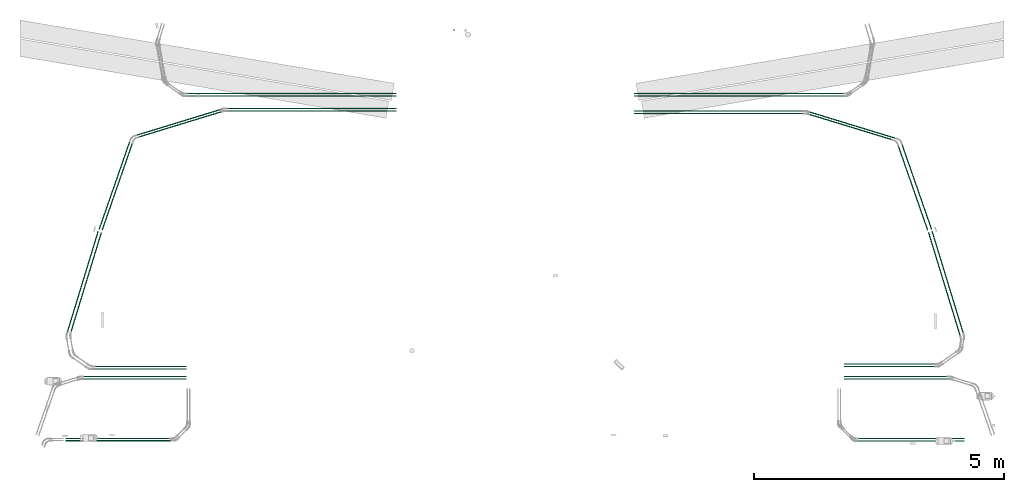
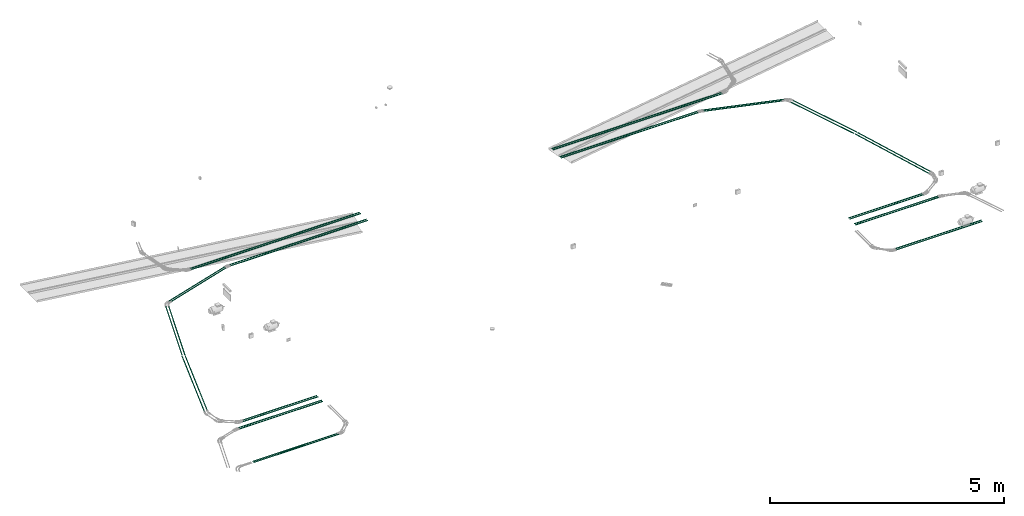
# One storey, part 1 of 22: 32 flow segments.
"""IFC2X3 building model written with IfcOpenShell, lengths in millimetres."""

from ifc_helpers import new_model, entity, si_unit, converted_unit, derived_unit, direction, frame, origin_with_axes, origin_2d_with_axis, place, context, subcontext, project, spatial, hollow_circle, extrude, source, transform, mapped, type_object, element, save


model = new_model("IFC2X3")

# Units and contexts
model_context = context("Model", 3, precision=0.01, world=frame((0.0, 4.29681676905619e-09, 0.0)), true_north=direction((4.01073788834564e-13, 1.0)))
plan_context = context("Plan", 3, precision=0.01, world=frame((0.0, 4.29681676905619e-09, 0.0)), true_north=direction((4.01073788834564e-13, 1.0)))
body_context = subcontext(model_context, "Body", "Model", "MODEL_VIEW")
ifc_project = project(units=[converted_unit("PLANEANGLEUNIT", "DEGREE", entity("IfcPositiveLengthMeasure", 0.0174532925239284), si_unit("PLANEANGLEUNIT", "RADIAN"), dimensions=[0, 0, 0, 0, 0, 0, 0]), si_unit("AREAUNIT", "SQUARE_METRE"), si_unit("LENGTHUNIT", "METRE", prefix="MILLI"), si_unit("MASSUNIT", "GRAM", prefix="KILO"), si_unit("POWERUNIT", "WATT"), si_unit("PRESSUREUNIT", "PASCAL", prefix="KILO"), si_unit("FORCEUNIT", "NEWTON", prefix="KILO"), si_unit("ELECTRICVOLTAGEUNIT", "VOLT"), si_unit("ELECTRICCURRENTUNIT", "AMPERE"), si_unit("THERMODYNAMICTEMPERATUREUNIT", "DEGREE_CELSIUS"), si_unit("TIMEUNIT", "SECOND"), si_unit("VOLUMEUNIT", "CUBIC_METRE"), derived_unit("LINEARVELOCITYUNIT", [(si_unit("LENGTHUNIT", "METRE"), 1), (si_unit("TIMEUNIT", "SECOND"), -1)]), derived_unit("VOLUMETRICFLOWRATEUNIT", [(si_unit("VOLUMEUNIT", "CUBIC_METRE"), 1), (si_unit("TIMEUNIT", "SECOND"), -1)]), derived_unit("THERMALTRANSMITTANCEUNIT", [(si_unit("POWERUNIT", "WATT"), 1), (si_unit("THERMODYNAMICTEMPERATUREUNIT", "KELVIN"), -1), (si_unit("AREAUNIT", "SQUARE_METRE"), -1)]), derived_unit("SOUNDPRESSUREUNIT", [(si_unit("PRESSUREUNIT", "PASCAL"), 1)])], contexts=[model_context, plan_context])

# Site, building, storey
site_placement = place(None, frame((0.0, -4.29681676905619e-09, 0.0), z_axis=(0.0, 0.0, 1.0), x_axis=(1.0, 0.0, 0.0)))
site = spatial("IfcSite", under=ifc_project, at=site_placement, Name="ENGM", CompositionType="ELEMENT")
building_placement = place(site_placement, frame((0.0, 4.29681676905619e-09, 0.0), z_axis=(0.0, 0.0, 1.0), x_axis=(1.0, 0.0, 0.0)))
building = spatial("IfcBuilding", under=site, at=building_placement, Name="TI", CompositionType="ELEMENT")
storey_placement = place(building_placement, frame((0.0, 0.0, 210900.0), z_axis=(0.0, 0.0, 1.0), x_axis=(1.0, 0.0, 0.0)))
storey = spatial("IfcBuildingStorey", under=building, at=storey_placement, Name="Nivå F", CompositionType="ELEMENT", Elevation=210900.0)

# Flow segments
cable_carrier_segment_type = type_object("IfcCableCarrierSegmentType", Name="Trekkerør, korrugert", PredefinedType="CONDUITSEGMENT")
shared_shape_1 = source(origin_with_axes(), body_context, "Body", "SweptSolid", [
    extrude(hollow_circle(Radius=12.5, WallThickness=2.0, at=origin_2d_with_axis()), frame((0.0, 0.0, 0.0), z_axis=(1.0, 0.0, 0.0), x_axis=(0.0, 1.0, 0.0)), (0.0, 0.0, 1.0), 2103.8),
])
flow_segment_1_placement = place(storey_placement, frame((585115.91323, 569811.72978, -56.7999999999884), z_axis=(0.0, 0.0, 1.0), x_axis=(-1.0, 0.0, 0.0)))
element("IfcFlowSegment", 1, at=flow_segment_1_placement, inside=storey, type_object=cable_carrier_segment_type, Name="Trekkerør, korrugert", context=body_context, shape_type="MappedRepresentation", body=[
    mapped(shared_shape_1, transform((0.0, 0.0, 0.0), scale=1.0)),
])
shared_shape_2 = source(origin_with_axes(), body_context, "Body", "SweptSolid", [
    extrude(hollow_circle(Radius=12.5, WallThickness=2.0, at=origin_2d_with_axis()), frame((0.0, 0.0, 0.0), z_axis=(1.0, 0.0, 0.0), x_axis=(0.0, 1.0, 0.0)), (0.0, 0.0, 1.0), 2071.4),
])
flow_segment_2_placement = place(storey_placement, frame((585083.47486, 569855.0, -56.7999999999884), z_axis=(0.0, 0.0, 1.0), x_axis=(-1.0, 0.0, 0.0)))
element("IfcFlowSegment", 2, at=flow_segment_2_placement, inside=storey, type_object=cable_carrier_segment_type, Name="Trekkerør, korrugert", context=body_context, shape_type="MappedRepresentation", body=[
    mapped(shared_shape_2, transform((0.0, 0.0, 0.0), scale=1.0)),
])
shared_shape_3 = source(origin_with_axes(), body_context, "Body", "SweptSolid", [
    extrude(hollow_circle(Radius=12.5, WallThickness=2.0, at=origin_2d_with_axis()), frame((0.0, 0.0, 0.0), z_axis=(1.0, 0.0, 0.0), x_axis=(0.0, 1.0, 0.0)), (0.0, 0.0, 1.0), 2055.3),
])
for number, where, z_axis, x_axis in (
    (3, (583373.0429, 571094.62419, -56.7999999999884), (0.0, 0.0, 1.0), (1.0, 0.0, 0.0)),
    (4, (583373.0429, 571044.62419, -56.7999999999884), (0.0, 0.0, 1.0), (1.0, 0.0, 0.0)),
    (5, (600626.9571, 571094.62419, -56.7999999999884), (0.0, 0.0, 1.0), (-1.0, 0.0, 0.0)),
    (6, (600626.9571, 571044.62419, -56.7999999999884), (0.0, 0.0, 1.0), (-1.0, 0.0, 0.0)),
):
    element("IfcFlowSegment", number, at=place(storey_placement, frame(where, z_axis=z_axis, x_axis=x_axis)), inside=storey, type_object=cable_carrier_segment_type, Name="Trekkerør, korrugert", context=body_context, shape_type="MappedRepresentation", body=[
        mapped(shared_shape_3, transform((0.0, 0.0, 0.0), scale=1.0)),
    ])
shared_shape_4 = source(origin_with_axes(), body_context, "Body", "SweptSolid", [
    extrude(hollow_circle(Radius=12.5, WallThickness=2.0, at=origin_2d_with_axis()), frame((0.0, 0.0, 0.0), z_axis=(1.0, 0.0, 0.0), x_axis=(0.0, 1.0, 0.0)), (0.0, 0.0, 1.0), 1862.7),
])
flow_segment_3_placement = place(storey_placement, frame((583565.67102, 571244.62419, -56.7999999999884), z_axis=(0.0, 0.0, 1.0), x_axis=(1.0, 0.0, 0.0)))
element("IfcFlowSegment", 7, at=flow_segment_3_placement, inside=storey, type_object=cable_carrier_segment_type, Name="Trekkerør, korrugert", context=body_context, shape_type="MappedRepresentation", body=[
    mapped(shared_shape_4, transform((0.0, 0.0, 0.0), scale=1.0)),
])
shared_shape_5 = source(origin_with_axes(), body_context, "Body", "SweptSolid", [
    extrude(hollow_circle(Radius=12.5, WallThickness=2.0, at=origin_2d_with_axis()), frame((0.0, 0.0, 0.0), z_axis=(1.0, 0.0, 0.0), x_axis=(0.0, 1.0, 0.0)), (0.0, 0.0, 1.0), 2109.9),
])
flow_segment_4_placement = place(storey_placement, frame((583048.52844, 571981.90299, -56.7999999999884), z_axis=(0.0, 0.0, 1.0), x_axis=(0.292371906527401, 0.956304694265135, 0.0)))
element("IfcFlowSegment", 8, at=flow_segment_4_placement, inside=storey, type_object=cable_carrier_segment_type, Name="Trekkerør, korrugert", context=body_context, shape_type="MappedRepresentation", body=[
    mapped(shared_shape_5, transform((0.0, 0.0, 0.0), scale=1.0)),
])
shared_shape_6 = source(origin_with_axes(), body_context, "Body", "SweptSolid", [
    extrude(hollow_circle(Radius=12.5, WallThickness=2.0, at=origin_2d_with_axis()), frame((0.0, 0.0, 0.0), z_axis=(1.0, 0.0, 0.0), x_axis=(0.0, 1.0, 0.0)), (0.0, 0.0, 1.0), 1817.5),
])
for number, where, z_axis, x_axis in (
    (9, (583610.84132, 571294.62419, -56.7999999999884), (0.0, 0.0, 1.0), (1.0, 0.0, 0.0)),
    (10, (600389.15868, 571294.62419, -56.7999999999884), (0.0, 0.0, 1.0), (-1.0, 0.0, 0.0)),
):
    element("IfcFlowSegment", number, at=place(storey_placement, frame(where, z_axis=z_axis, x_axis=x_axis)), inside=storey, type_object=cable_carrier_segment_type, Name="Trekkerør, korrugert", context=body_context, shape_type="MappedRepresentation", body=[
        mapped(shared_shape_6, transform((0.0, 0.0, 0.0), scale=1.0)),
    ])
shared_shape_7 = source(origin_with_axes(), body_context, "Body", "SweptSolid", [
    extrude(hollow_circle(Radius=12.5, WallThickness=2.0, at=origin_2d_with_axis()), frame((0.0, 0.0, 0.0), z_axis=(1.0, 0.0, 0.0), x_axis=(0.0, 1.0, 0.0)), (0.0, 0.0, 1.0), 2061.0),
])
flow_segment_5_placement = place(storey_placement, frame((583125.6069, 572000.50934, -56.7999999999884), z_axis=(0.0, 0.0, 1.0), x_axis=(0.292371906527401, 0.956304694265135, 0.0)))
element("IfcFlowSegment", 11, at=flow_segment_5_placement, inside=storey, type_object=cable_carrier_segment_type, Name="Trekkerør, korrugert", context=body_context, shape_type="MappedRepresentation", body=[
    mapped(shared_shape_7, transform((0.0, 0.0, 0.0), scale=1.0)),
])
shared_shape_8 = source(origin_with_axes(), body_context, "Body", "SweptSolid", [
    extrude(hollow_circle(Radius=12.5, WallThickness=2.0, at=origin_2d_with_axis()), frame((0.0, 0.0, 0.0), z_axis=(1.0, 0.0, 0.0), x_axis=(0.0, 1.0, 0.0)), (0.0, 0.0, 1.0), 3382.9),
])
for number, where, z_axis, x_axis in (
    (12, (586245.44178, 576401.49851, -56.7999999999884), (0.0, 0.0, 1.0), (1.0, 0.0, 0.0)),
    (13, (586245.44178, 576451.49851, -56.7999999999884), (0.0, 0.0, 1.0), (1.0, 0.0, 0.0)),
    (14, (597754.55822, 576351.49851, -56.7999999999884), (0.0, 0.0, 1.0), (-1.0, 0.0, 0.0)),
    (15, (597754.55822, 576401.49851, -56.7999999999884), (0.0, 0.0, 1.0), (-1.0, 0.0, 0.0)),
):
    element("IfcFlowSegment", number, at=place(storey_placement, frame(where, z_axis=z_axis, x_axis=x_axis)), inside=storey, type_object=cable_carrier_segment_type, Name="Trekkerør, korrugert", context=body_context, shape_type="MappedRepresentation", body=[
        mapped(shared_shape_8, transform((0.0, 0.0, 0.0), scale=1.0)),
    ])
shared_shape_9 = source(origin_with_axes(), body_context, "Body", "SweptSolid", [
    extrude(hollow_circle(Radius=12.5, WallThickness=2.0, at=origin_2d_with_axis()), frame((0.0, 0.0, 0.0), z_axis=(1.0, 0.0, 0.0), x_axis=(0.0, 1.0, 0.0)), (0.0, 0.0, 1.0), 1697.2),
])
flow_segment_6_placement = place(storey_placement, frame((586114.34225, 576381.90556, -56.7999999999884), z_axis=(0.0, 0.0, 1.0), x_axis=(-0.956304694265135, -0.292371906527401, 0.0)))
element("IfcFlowSegment", 16, at=flow_segment_6_placement, inside=storey, type_object=cable_carrier_segment_type, Name="Trekkerør, korrugert", context=body_context, shape_type="MappedRepresentation", body=[
    mapped(shared_shape_9, transform((0.0, 0.0, 0.0), scale=1.0)),
])
shared_shape_10 = source(origin_with_axes(), body_context, "Body", "SweptSolid", [
    extrude(hollow_circle(Radius=12.5, WallThickness=2.0, at=origin_2d_with_axis()), frame((0.0, 0.0, 0.0), z_axis=(1.0, 0.0, 0.0), x_axis=(0.0, 1.0, 0.0)), (0.0, 0.0, 1.0), 1825.3),
])
flow_segment_7_placement = place(storey_placement, frame((584344.55106, 575744.47391, -56.7999999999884), z_axis=(0.0, 0.0, 1.0), x_axis=(-0.328832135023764, -0.944388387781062, 0.0)))
element("IfcFlowSegment", 17, at=flow_segment_7_placement, inside=storey, type_object=cable_carrier_segment_type, Name="Trekkerør, korrugert", context=body_context, shape_type="MappedRepresentation", body=[
    mapped(shared_shape_10, transform((0.0, 0.0, 0.0), scale=1.0)),
])
shared_shape_11 = source(origin_with_axes(), body_context, "Body", "SweptSolid", [
    extrude(hollow_circle(Radius=12.5, WallThickness=2.0, at=origin_2d_with_axis()), frame((0.0, 0.0, 0.0), z_axis=(1.0, 0.0, 0.0), x_axis=(0.0, 1.0, 0.0)), (0.0, 0.0, 1.0), 1753.6),
])
flow_segment_8_placement = place(storey_placement, frame((586114.34225, 576431.90556, -56.7999999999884), z_axis=(0.0, 0.0, 1.0), x_axis=(-0.956304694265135, -0.292371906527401, 0.0)))
element("IfcFlowSegment", 18, at=flow_segment_8_placement, inside=storey, type_object=cable_carrier_segment_type, Name="Trekkerør, korrugert", context=body_context, shape_type="MappedRepresentation", body=[
    mapped(shared_shape_11, transform((0.0, 0.0, 0.0), scale=1.0)),
])
shared_shape_12 = source(origin_with_axes(), body_context, "Body", "SweptSolid", [
    extrude(hollow_circle(Radius=12.5, WallThickness=2.0, at=origin_2d_with_axis()), frame((0.0, 0.0, 0.0), z_axis=(1.0, 0.0, 0.0), x_axis=(0.0, 1.0, 0.0)), (0.0, 0.0, 1.0), 1845.8),
])
flow_segment_9_placement = place(storey_placement, frame((584290.67143, 575778.00125, -56.7999999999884), z_axis=(0.0, 0.0, 1.0), x_axis=(-0.328832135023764, -0.944388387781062, 0.0)))
element("IfcFlowSegment", 19, at=flow_segment_9_placement, inside=storey, type_object=cable_carrier_segment_type, Name="Trekkerør, korrugert", context=body_context, shape_type="MappedRepresentation", body=[
    mapped(shared_shape_12, transform((0.0, 0.0, 0.0), scale=1.0)),
])
shared_shape_13 = source(origin_with_axes(), body_context, "Body", "SweptSolid", [
    extrude(hollow_circle(Radius=12.5, WallThickness=2.0, at=origin_2d_with_axis()), frame((0.0, 0.0, 0.0), z_axis=(1.0, 0.0, 0.0), x_axis=(0.0, 1.0, 0.0)), (0.0, 0.0, 1.0), 4182.8),
])
for number, where, z_axis, x_axis in (
    (20, (585445.58535, 576749.62419, -56.7999999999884), (0.0, 0.0, 1.0), (1.0, 0.0, 0.0)),
    (21, (585445.58535, 576699.62419, -56.7999999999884), (0.0, 0.0, 1.0), (1.0, 0.0, 0.0)),
    (22, (598554.41465, 576749.62419, -56.7999999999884), (0.0, 0.0, 1.0), (-1.0, 0.0, 0.0)),
    (23, (598554.41465, 576699.62419, -56.7999999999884), (0.0, 0.0, 1.0), (-1.0, 0.0, 0.0)),
):
    element("IfcFlowSegment", number, at=place(storey_placement, frame(where, z_axis=z_axis, x_axis=x_axis)), inside=storey, type_object=cable_carrier_segment_type, Name="Trekkerør, korrugert", context=body_context, shape_type="MappedRepresentation", body=[
        mapped(shared_shape_13, transform((0.0, 0.0, 0.0), scale=1.0)),
    ])
shared_shape_14 = source(origin_with_axes(), body_context, "Body", "SweptSolid", [
    extrude(hollow_circle(Radius=12.5, WallThickness=2.0, at=origin_2d_with_axis()), frame((0.0, 0.0, 0.0), z_axis=(1.0, 0.0, 0.0), x_axis=(0.0, 1.0, 0.0)), (0.0, 0.0, 1.0), 2121.4),
])
for number, where, z_axis, x_axis in (
    (24, (598866.52514, 569805.0, -56.7999999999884), (0.0, 0.0, 1.0), (1.0, 0.0, 0.0)),
    (25, (598866.52514, 569855.0, -56.7999999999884), (0.0, 0.0, 1.0), (1.0, 0.0, 0.0)),
):
    element("IfcFlowSegment", number, at=place(storey_placement, frame(where, z_axis=z_axis, x_axis=x_axis)), inside=storey, type_object=cable_carrier_segment_type, Name="Trekkerør, korrugert", context=body_context, shape_type="MappedRepresentation", body=[
        mapped(shared_shape_14, transform((0.0, 0.0, 0.0), scale=1.0)),
    ])
shared_shape_15 = source(origin_with_axes(), body_context, "Body", "SweptSolid", [
    extrude(hollow_circle(Radius=12.5, WallThickness=2.0, at=origin_2d_with_axis()), frame((0.0, 0.0, 0.0), z_axis=(1.0, 0.0, 0.0), x_axis=(0.0, 1.0, 0.0)), (0.0, 0.0, 1.0), 2122.4),
])
flow_segment_10_placement = place(storey_placement, frame((600955.23253, 571969.6014, -56.7999999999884), z_axis=(0.0, 0.0, 1.0), x_axis=(-0.292371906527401, 0.956304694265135, 0.0)))
element("IfcFlowSegment", 26, at=flow_segment_10_placement, inside=storey, type_object=cable_carrier_segment_type, Name="Trekkerør, korrugert", context=body_context, shape_type="MappedRepresentation", body=[
    mapped(shared_shape_15, transform((0.0, 0.0, 0.0), scale=1.0)),
])
shared_shape_16 = source(origin_with_axes(), body_context, "Body", "SweptSolid", [
    extrude(hollow_circle(Radius=12.5, WallThickness=2.0, at=origin_2d_with_axis()), frame((0.0, 0.0, 0.0), z_axis=(1.0, 0.0, 0.0), x_axis=(0.0, 1.0, 0.0)), (0.0, 0.0, 1.0), 1806.1),
])
flow_segment_11_placement = place(storey_placement, frame((600377.70954, 571344.62419, -56.7999999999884), z_axis=(0.0, 0.0, 1.0), x_axis=(-1.0, 0.0, 0.0)))
element("IfcFlowSegment", 27, at=flow_segment_11_placement, inside=storey, type_object=cable_carrier_segment_type, Name="Trekkerør, korrugert", context=body_context, shape_type="MappedRepresentation", body=[
    mapped(shared_shape_16, transform((0.0, 0.0, 0.0), scale=1.0)),
])
shared_shape_17 = source(origin_with_axes(), body_context, "Body", "SweptSolid", [
    extrude(hollow_circle(Radius=12.5, WallThickness=2.0, at=origin_2d_with_axis()), frame((0.0, 0.0, 0.0), z_axis=(1.0, 0.0, 0.0), x_axis=(0.0, 1.0, 0.0)), (0.0, 0.0, 1.0), 2160.3),
])
flow_segment_12_placement = place(storey_placement, frame((600894.99385, 571911.53493, -56.7999999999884), z_axis=(0.0, 0.0, 1.0), x_axis=(-0.292371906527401, 0.956304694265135, 0.0)))
element("IfcFlowSegment", 28, at=flow_segment_12_placement, inside=storey, type_object=cable_carrier_segment_type, Name="Trekkerør, korrugert", context=body_context, shape_type="MappedRepresentation", body=[
    mapped(shared_shape_17, transform((0.0, 0.0, 0.0), scale=1.0)),
])
shared_shape_18 = source(origin_with_axes(), body_context, "Body", "SweptSolid", [
    extrude(hollow_circle(Radius=12.5, WallThickness=2.0, at=origin_2d_with_axis()), frame((0.0, 0.0, 0.0), z_axis=(1.0, 0.0, 0.0), x_axis=(0.0, 1.0, 0.0)), (0.0, 0.0, 1.0), 1706.3),
])
flow_segment_13_placement = place(storey_placement, frame((597885.65775, 576331.90556, -56.7999999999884), z_axis=(0.0, 0.0, 1.0), x_axis=(0.956304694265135, -0.292371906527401, 0.0)))
element("IfcFlowSegment", 29, at=flow_segment_13_placement, inside=storey, type_object=cable_carrier_segment_type, Name="Trekkerør, korrugert", context=body_context, shape_type="MappedRepresentation", body=[
    mapped(shared_shape_18, transform((0.0, 0.0, 0.0), scale=1.0)),
])
shared_shape_19 = source(origin_with_axes(), body_context, "Body", "SweptSolid", [
    extrude(hollow_circle(Radius=12.5, WallThickness=2.0, at=origin_2d_with_axis()), frame((0.0, 0.0, 0.0), z_axis=(1.0, 0.0, 0.0), x_axis=(0.0, 1.0, 0.0)), (0.0, 0.0, 1.0), 1775.8),
])
flow_segment_14_placement = place(storey_placement, frame((599664.09653, 575691.83007, -56.7999999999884), z_axis=(0.0, 0.0, 1.0), x_axis=(0.328832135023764, -0.944388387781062, 0.0)))
element("IfcFlowSegment", 30, at=flow_segment_14_placement, inside=storey, type_object=cable_carrier_segment_type, Name="Trekkerør, korrugert", context=body_context, shape_type="MappedRepresentation", body=[
    mapped(shared_shape_19, transform((0.0, 0.0, 0.0), scale=1.0)),
])
shared_shape_20 = source(origin_with_axes(), body_context, "Body", "SweptSolid", [
    extrude(hollow_circle(Radius=12.5, WallThickness=2.0, at=origin_2d_with_axis()), frame((0.0, 0.0, 0.0), z_axis=(1.0, 0.0, 0.0), x_axis=(0.0, 1.0, 0.0)), (0.0, 0.0, 1.0), 1785.0),
])
for number, where, z_axis, x_axis in (
    (31, (597885.65775, 576381.90556, -56.7999999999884), (0.0, 0.0, 1.0), (0.956304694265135, -0.292371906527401, 0.0)),
    (32, (599739.38163, 575718.81311, -56.7999999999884), (0.0, 0.0, 1.0), (0.328832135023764, -0.944388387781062, 0.0)),
):
    element("IfcFlowSegment", number, at=place(storey_placement, frame(where, z_axis=z_axis, x_axis=x_axis)), inside=storey, type_object=cable_carrier_segment_type, Name="Trekkerør, korrugert", context=body_context, shape_type="MappedRepresentation", body=[
        mapped(shared_shape_20, transform((0.0, 0.0, 0.0), scale=1.0)),
    ])

save(model, "model.ifc")
